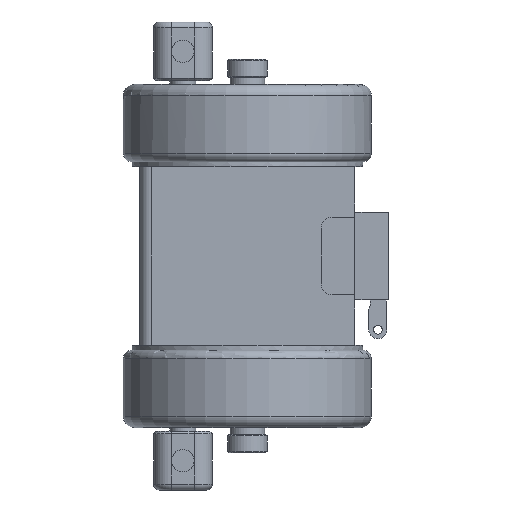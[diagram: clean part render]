
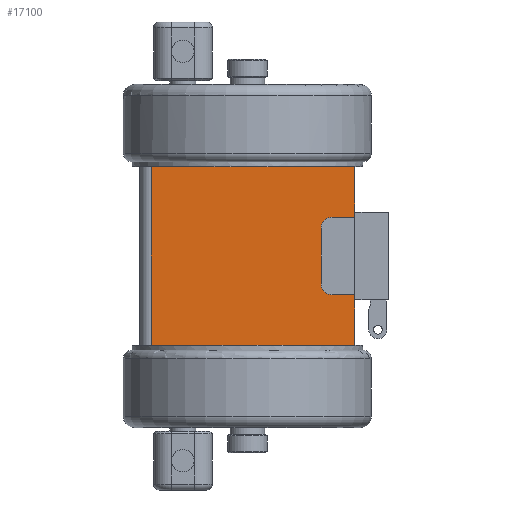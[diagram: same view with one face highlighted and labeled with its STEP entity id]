
A CAD part, left-side view. The second image highlights one B-rep face of the part: STEP entity #17100.
In plain terms, the highlighted planar face has unit normal (-1, 0, 0).
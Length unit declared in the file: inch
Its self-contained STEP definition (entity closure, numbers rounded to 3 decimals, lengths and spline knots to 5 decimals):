
#1302 = FACE_OUTER_BOUND ( 'NONE', #6280, .T. ) ;
#2257 = LINE ( 'NONE', #31724, #2262 ) ;
#2262 = VECTOR ( 'NONE', #31729, 39.37008 ) ;
#2263 = LINE ( 'NONE', #31730, #2265 ) ;
#2265 = VECTOR ( 'NONE', #31728, 39.37008 ) ;
#2266 = LINE ( 'NONE', #31742, #2270 ) ;
#2270 = VECTOR ( 'NONE', #31738, 39.37008 ) ;
#2274 = LINE ( 'NONE', #31761, #2280 ) ;
#2280 = VECTOR ( 'NONE', #31756, 39.37008 ) ;
#2281 = LINE ( 'NONE', #31752, #2283 ) ;
#2282 = CIRCLE ( 'NONE', #36509, 0.25 ) ;
#2283 = VECTOR ( 'NONE', #31760, 39.37008 ) ;
#2284 = LINE ( 'NONE', #31765, #2286 ) ;
#2286 = VECTOR ( 'NONE', #31766, 39.37008 ) ;
#4991 = AXIS2_PLACEMENT_3D ( 'NONE', #25908, #25913, #25914 ) ;
#5997 = VERTEX_POINT ( 'NONE', #11854 ) ;
#6002 = VERTEX_POINT ( 'NONE', #11859 ) ;
#6017 = VERTEX_POINT ( 'NONE', #11874 ) ;
#6163 = VERTEX_POINT ( 'NONE', #15266 ) ;
#6164 = VERTEX_POINT ( 'NONE', #15267 ) ;
#6165 = VERTEX_POINT ( 'NONE', #15268 ) ;
#6168 = VERTEX_POINT ( 'NONE', #15270 ) ;
#6170 = VERTEX_POINT ( 'NONE', #15272 ) ;
#6180 = VERTEX_POINT ( 'NONE', #15282 ) ;
#6181 = VERTEX_POINT ( 'NONE', #15283 ) ;
#6182 = VERTEX_POINT ( 'NONE', #15284 ) ;
#6183 = VERTEX_POINT ( 'NONE', #15285 ) ;
#6192 = VERTEX_POINT ( 'NONE', #15293 ) ;
#6204 = VERTEX_POINT ( 'NONE', #15297 ) ;
#6214 = VERTEX_POINT ( 'NONE', #15311 ) ;
#6280 = EDGE_LOOP ( 'NONE', ( #32596, #32598, #32600, #32602, #32604, #32606, #32608, #32610, #32612, #32614, #32616, #32618, #32620, #32622, #32624, #32626 ) ) ;
#9227 = VERTEX_POINT ( 'NONE', #30846 ) ;
#11854 = CARTESIAN_POINT ( 'NONE',  ( -2.382, -2.382, -0.975 ) ) ;
#11859 = CARTESIAN_POINT ( 'NONE',  ( -2.382, -2.382, 0.975 ) ) ;
#11874 = CARTESIAN_POINT ( 'NONE',  ( -2.382, -2.382, 1.974 ) ) ;
#15266 = CARTESIAN_POINT ( 'NONE',  ( -2.382, -0.92556, 1.974 ) ) ;
#15267 = CARTESIAN_POINT ( 'NONE',  ( -2.382, 0.92556, 1.974 ) ) ;
#15268 = CARTESIAN_POINT ( 'NONE',  ( -2.382, -1.632, -0.6075 ) ) ;
#15270 = CARTESIAN_POINT ( 'NONE',  ( -2.382, 2.132, 1.974 ) ) ;
#15272 = CARTESIAN_POINT ( 'NONE',  ( -2.382, -1.882, -0.8575 ) ) ;
#15282 = CARTESIAN_POINT ( 'NONE',  ( -2.382, -2.382, 0.8575 ) ) ;
#15283 = CARTESIAN_POINT ( 'NONE',  ( -2.382, -1.632, 0.6075 ) ) ;
#15284 = CARTESIAN_POINT ( 'NONE',  ( -2.382, -1.882, 0.8575 ) ) ;
#15285 = CARTESIAN_POINT ( 'NONE',  ( -2.382, -2.382, -0.8575 ) ) ;
#15293 = CARTESIAN_POINT ( 'NONE',  ( -2.382, 2.132, -1.974 ) ) ;
#15297 = CARTESIAN_POINT ( 'NONE',  ( -2.382, 0.92556, -1.974 ) ) ;
#15311 = CARTESIAN_POINT ( 'NONE',  ( -2.382, -0.92556, -1.974 ) ) ;
#17100 = ADVANCED_FACE ( 'NONE', ( #1302 ), #25907, .T. ) ;
#18649 = EDGE_CURVE ( 'NONE', #6214, #9227, #2257, .T. ) ;
#18651 = EDGE_CURVE ( 'NONE', #6192, #6204, #2263, .T. ) ;
#18655 = EDGE_CURVE ( 'NONE', #6017, #6163, #2266, .T. ) ;
#18662 = EDGE_CURVE ( 'NONE', #6164, #6168, #2274, .T. ) ;
#18664 = EDGE_CURVE ( 'NONE', #6170, #6183, #2281, .T. ) ;
#18665 = EDGE_CURVE ( 'NONE', #6165, #6170, #2282, .T. ) ;
#18666 = EDGE_CURVE ( 'NONE', #6181, #6165, #2284, .T. ) ;
#21095 = CARTESIAN_POINT ( 'NONE',  ( -2.382, -2.382, 1.974 ) ) ;
#21096 = DIRECTION ( 'NONE',  ( 0., 0., -1. ) ) ;
#21111 = DIRECTION ( 'NONE',  ( 0., 0., -1. ) ) ;
#21112 = CARTESIAN_POINT ( 'NONE',  ( -2.382, -2.382, 1.974 ) ) ;
#21131 = DIRECTION ( 'NONE',  ( 0., 1., 0. ) ) ;
#21153 = CARTESIAN_POINT ( 'NONE',  ( -2.382, -2.382, 0.8575 ) ) ;
#21158 = CARTESIAN_POINT ( 'NONE',  ( -2.382, -2.382, 1.974 ) ) ;
#21159 = CARTESIAN_POINT ( 'NONE',  ( -2.382, -1.882, 0.6075 ) ) ;
#21160 = DIRECTION ( 'NONE',  ( -1., 0., 0. ) ) ;
#21161 = DIRECTION ( 'NONE',  ( 0., 0., -1. ) ) ;
#21162 = CARTESIAN_POINT ( 'NONE',  ( -2.382, -2.382, -1.974 ) ) ;
#21163 = DIRECTION ( 'NONE',  ( 0., 0., 1. ) ) ;
#21164 = CARTESIAN_POINT ( 'NONE',  ( -2.382, 2.382, 1.974 ) ) ;
#21165 = DIRECTION ( 'NONE',  ( 0., -1., 0. ) ) ;
#21166 = CARTESIAN_POINT ( 'NONE',  ( -2.382, 2.132, -1.974 ) ) ;
#21167 = DIRECTION ( 'NONE',  ( 0., 0., -1. ) ) ;
#21168 = CARTESIAN_POINT ( 'NONE',  ( -2.382, 2.382, -1.974 ) ) ;
#21170 = DIRECTION ( 'NONE',  ( 0., 1., 0. ) ) ;
#21171 = DIRECTION ( 'NONE',  ( 0., 0., -1. ) ) ;
#25907 = PLANE ( 'NONE',  #4991 ) ;
#25908 = CARTESIAN_POINT ( 'NONE',  ( -2.382, 2.382, -1.974 ) ) ;
#25913 = DIRECTION ( 'NONE',  ( -1., 0., 0. ) ) ;
#25914 = DIRECTION ( 'NONE',  ( 0., 0., 1. ) ) ;
#30846 = CARTESIAN_POINT ( 'NONE',  ( -2.382, -2.382, -1.974 ) ) ;
#31724 = CARTESIAN_POINT ( 'NONE',  ( -2.382, 2.382, -1.974 ) ) ;
#31728 = DIRECTION ( 'NONE',  ( 0., -1., 0. ) ) ;
#31729 = DIRECTION ( 'NONE',  ( 0., -1., 0. ) ) ;
#31730 = CARTESIAN_POINT ( 'NONE',  ( -2.382, 2.382, -1.974 ) ) ;
#31738 = DIRECTION ( 'NONE',  ( 0., 1., 0. ) ) ;
#31742 = CARTESIAN_POINT ( 'NONE',  ( -2.382, -2.382, 1.974 ) ) ;
#31752 = CARTESIAN_POINT ( 'NONE',  ( -2.382, -2.382, -0.8575 ) ) ;
#31756 = DIRECTION ( 'NONE',  ( 0., 1., 0. ) ) ;
#31760 = DIRECTION ( 'NONE',  ( 0., -1., 0. ) ) ;
#31761 = CARTESIAN_POINT ( 'NONE',  ( -2.382, -2.382, 1.974 ) ) ;
#31765 = CARTESIAN_POINT ( 'NONE',  ( -2.382, -1.632, -0.6075 ) ) ;
#31766 = DIRECTION ( 'NONE',  ( 0., 0., -1. ) ) ;
#31772 = CARTESIAN_POINT ( 'NONE',  ( -2.382, -1.882, -0.6075 ) ) ;
#31773 = DIRECTION ( 'NONE',  ( -1., 0., 0. ) ) ;
#31774 = DIRECTION ( 'NONE',  ( 0., 0., -1. ) ) ;
#32596 = ORIENTED_EDGE ( 'NONE', *, *, #18664, .F. ) ;
#32598 = ORIENTED_EDGE ( 'NONE', *, *, #18665, .F. ) ;
#32600 = ORIENTED_EDGE ( 'NONE', *, *, #18666, .F. ) ;
#32602 = ORIENTED_EDGE ( 'NONE', *, *, #38679, .F. ) ;
#32604 = ORIENTED_EDGE ( 'NONE', *, *, #38680, .F. ) ;
#32606 = ORIENTED_EDGE ( 'NONE', *, *, #38681, .T. ) ;
#32608 = ORIENTED_EDGE ( 'NONE', *, *, #38664, .F. ) ;
#32610 = ORIENTED_EDGE ( 'NONE', *, *, #18655, .T. ) ;
#32612 = ORIENTED_EDGE ( 'NONE', *, *, #38682, .F. ) ;
#32614 = ORIENTED_EDGE ( 'NONE', *, *, #18662, .T. ) ;
#32616 = ORIENTED_EDGE ( 'NONE', *, *, #38683, .T. ) ;
#32618 = ORIENTED_EDGE ( 'NONE', *, *, #18651, .T. ) ;
#32620 = ORIENTED_EDGE ( 'NONE', *, *, #38684, .F. ) ;
#32622 = ORIENTED_EDGE ( 'NONE', *, *, #18649, .T. ) ;
#32624 = ORIENTED_EDGE ( 'NONE', *, *, #38652, .F. ) ;
#32626 = ORIENTED_EDGE ( 'NONE', *, *, #38685, .F. ) ;
#33425 = LINE ( 'NONE', #21095, #33428 ) ;
#33428 = VECTOR ( 'NONE', #21096, 39.37008 ) ;
#33445 = LINE ( 'NONE', #21112, #33447 ) ;
#33447 = VECTOR ( 'NONE', #21111, 39.37008 ) ;
#33468 = LINE ( 'NONE', #21158, #33486 ) ;
#33472 = CIRCLE ( 'NONE', #38980, 0.25 ) ;
#33474 = LINE ( 'NONE', #21153, #33476 ) ;
#33475 = LINE ( 'NONE', #21162, #33478 ) ;
#33476 = VECTOR ( 'NONE', #21131, 39.37008 ) ;
#33477 = LINE ( 'NONE', #21164, #33480 ) ;
#33478 = VECTOR ( 'NONE', #21163, 39.37008 ) ;
#33479 = LINE ( 'NONE', #21166, #33482 ) ;
#33480 = VECTOR ( 'NONE', #21165, 39.37008 ) ;
#33481 = LINE ( 'NONE', #21168, #33484 ) ;
#33482 = VECTOR ( 'NONE', #21167, 39.37008 ) ;
#33484 = VECTOR ( 'NONE', #21170, 39.37008 ) ;
#33486 = VECTOR ( 'NONE', #21171, 39.37008 ) ;
#36509 = AXIS2_PLACEMENT_3D ( 'NONE', #31772, #31773, #31774 ) ;
#38652 = EDGE_CURVE ( 'NONE', #5997, #9227, #33425, .T. ) ;
#38664 = EDGE_CURVE ( 'NONE', #6017, #6002, #33445, .T. ) ;
#38679 = EDGE_CURVE ( 'NONE', #6182, #6181, #33472, .T. ) ;
#38680 = EDGE_CURVE ( 'NONE', #6180, #6182, #33474, .T. ) ;
#38681 = EDGE_CURVE ( 'NONE', #6180, #6002, #33475, .T. ) ;
#38682 = EDGE_CURVE ( 'NONE', #6164, #6163, #33477, .T. ) ;
#38683 = EDGE_CURVE ( 'NONE', #6168, #6192, #33479, .T. ) ;
#38684 = EDGE_CURVE ( 'NONE', #6214, #6204, #33481, .T. ) ;
#38685 = EDGE_CURVE ( 'NONE', #6183, #5997, #33468, .T. ) ;
#38980 = AXIS2_PLACEMENT_3D ( 'NONE', #21159, #21160, #21161 ) ;
